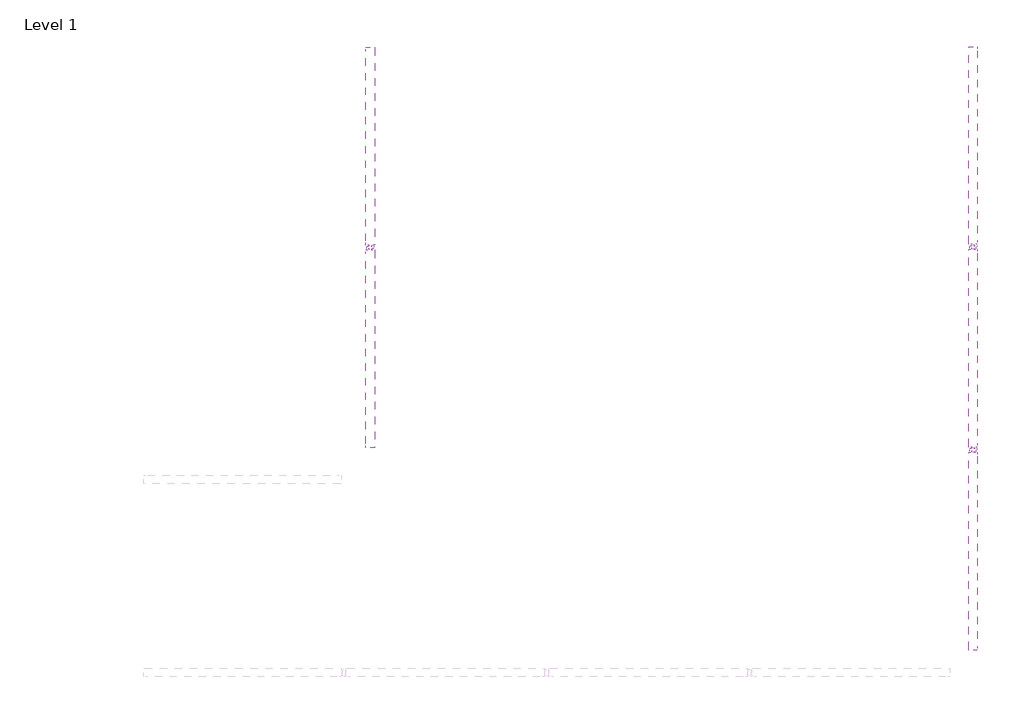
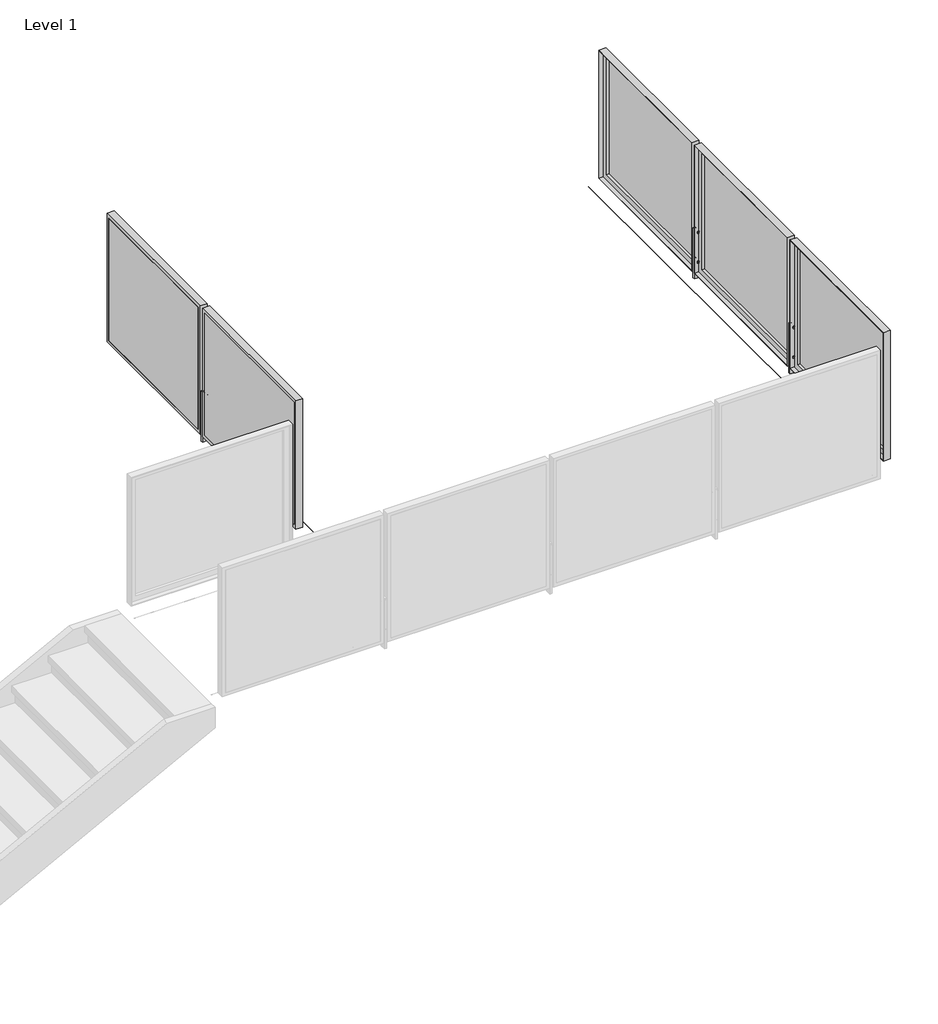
# One storey, part 7 of 37: 2 railings.
"""IFC4 building model written with IfcOpenShell, lengths in millimetres."""

from ifc_helpers import new_model, si_unit, point, frame, frame_2d, origin, place, context, project, spatial, polyline, circle_curve, trimmed, segment, composite_curve, outline, extrude, faceted_brep, element, save
from ifc_brep_helpers import plane_surface, cylinder_surface, advanced_brep

model = new_model("IFC4")

# Units and contexts
model_context = context("Model", 3, world=origin())
ifc_project = project(units=[si_unit("LENGTHUNIT", "METRE", prefix="MILLI")], contexts=[model_context])

# Site, building, storey
site = spatial("IfcSite", under=ifc_project)
building = spatial("IfcBuilding", under=site)
storey = spatial("IfcBuildingStorey", under=building, Name="Level 1", Elevation=0.0)

# Railings
placement = place(None, origin())
element("IfcRailing", 1, ObjectType="Metal-Panel-VIVA-FRAME-Slab-Top-Weld-Straight", at=placement, inside=storey, context=model_context, shape_type="SolidModel", body=[
    extrude(outline(composite_curve([segment(trimmed(circle_curve(frame_2d((3047.746, -31495.7438448)), 0.254), [point((3047.746, -31495.4898448))], [point((3047.746, -31495.9978448))], False, "CARTESIAN"), True, "CONTINUOUS"), segment(trimmed(circle_curve(frame_2d((3047.746, -31495.7438448)), 0.254), [point((3047.746, -31495.9978448))], [point((3047.746, -31495.4898448))], False, "CARTESIAN"), True, "CONTINUOUS")], self_intersect=False)), frame((0.0, -30035.206939, 0.0), z_axis=(0.0, 1.0, 0.0), x_axis=(0.0, 0.0, 1.0)), (0.0, 0.0, 1.0), 2540.0),
    extrude(outline(composite_curve([segment(trimmed(circle_curve(frame_2d((3047.746, -31495.7438448)), 0.254), [point((3047.746, -31495.4898448))], [point((3047.746, -31495.9978448))], False, "CARTESIAN"), True, "CONTINUOUS"), segment(trimmed(circle_curve(frame_2d((3047.746, -31495.7438448)), 0.254), [point((3047.746, -31495.9978448))], [point((3047.746, -31495.4898448))], False, "CARTESIAN"), True, "CONTINUOUS")], self_intersect=False)), frame((0.0, -30035.206939, 0.0), z_axis=(0.0, 1.0, 0.0), x_axis=(0.0, 0.0, 1.0)), (0.0, 0.0, 1.0), 2540.0),
    extrude(outline(polyline([(-31618.5542448, -28724.380482), (-31618.5542448, -27536.0333959), (-31615.5542448, -27536.0333959), (-31615.5542448, -28724.380482), (-31618.5542448, -28724.380482)])), frame((0.0, 0.0, 3124.1959569), z_axis=(0.0, 0.0, 1.0), x_axis=(1.0, 0.0, 0.0)), (0.0, 0.0, 1.0), 990.5826861),
    faceted_brep([(-31618.5542448, -28749.780482, 4140.1786431), (-31618.5542448, -27510.6333959, 4140.1786431), (-31618.5542448, -27510.6333959, 3098.7959569), (-31618.5542448, -28749.780482, 3098.7959569), (-31618.5542448, -28724.380482, 4114.7786431), (-31618.5542448, -28724.380482, 3124.1959569), (-31618.5542448, -27536.0333959, 3124.1959569), (-31618.5542448, -27536.0333959, 4114.7786431), (-31615.5542448, -28724.380482, 3124.1959569), (-31615.5542448, -27536.0333959, 3124.1959569), (-31615.5542448, -27536.0333959, 4114.7786431), (-31615.5542448, -28724.380482, 4114.7786431), (-31564.7542448, -28743.786082, 3104.7903569), (-31564.7542448, -27516.6277959, 3104.7903569), (-31595.5644448, -27516.6277959, 3104.7903569), (-31595.5644448, -28743.786082, 3104.7903569), (-31564.7542448, -27516.6277959, 4134.1842431), (-31595.5644448, -27516.6277959, 4134.1842431), (-31595.5644448, -28743.786082, 4134.1842431), (-31564.7542448, -28743.786082, 4134.1842431), (-31564.7542448, -27510.6333959, 3098.7959569), (-31564.7542448, -27510.6333959, 4140.1786431), (-31564.7542448, -28749.780482, 4140.1786431), (-31564.7542448, -28749.780482, 3098.7959569), (-31615.5542448, -28698.980482, 4089.3786431), (-31615.5542448, -28698.980482, 3149.5959569), (-31615.5542448, -27561.4333959, 3149.5959569), (-31615.5542448, -27561.4333959, 4089.3786431), (-31595.5644448, -27561.4333959, 3149.5959569), (-31595.5644448, -28698.980482, 3149.5959569), (-31595.5644448, -28698.980482, 4089.3786431), (-31595.5644448, -27561.4333959, 4089.3786431)], [[[0, 1, 2, 3], [4, 5, 6, 7]], [[5, 8, 9, 6]], [[6, 9, 10, 7]], [[7, 10, 11, 4]], [[4, 11, 8, 5]], [[12, 13, 14, 15]], [[13, 16, 17, 14]], [[15, 18, 19, 12]], [[20, 21, 22, 23], [12, 19, 16, 13]], [[23, 22, 0, 3]], [[23, 3, 2, 20]], [[2, 1, 21, 20]], [[22, 21, 1, 0]], [[11, 10, 9, 8], [24, 25, 26, 27]], [[14, 17, 18, 15], [28, 29, 30, 31]], [[18, 17, 16, 19]], [[27, 31, 30, 24]], [[26, 28, 31, 27]], [[25, 29, 28, 26]], [[24, 30, 29, 25]]]),
    advanced_brep(
    [(-31591.6542448, -28791.394339, 3178.1496), (-31591.6542448, -28791.394339, 3187.7), (-31591.6542448, -28791.394339, 3197.2504), (-31591.6542448, -28786.619139, 3178.1496), (-31591.6542448, -28786.619139, 3197.2504), (-31591.6542448, -28786.619139, 3182.9248), (-31591.6542448, -28786.619139, 3192.4752), (-31591.6542448, -28743.794739, 3182.9248), (-31591.6542448, -28743.794739, 3192.4752), (-31591.6542448, -28743.794739, 3178.1496), (-31591.6542448, -28743.794739, 3197.2504), (-31591.6542448, -28739.019539, 3178.1496), (-31591.6542448, -28739.019539, 3197.2504), (-31591.6542448, -28739.019539, 3187.7)],
    [
        (0, 1),
        (1, 2),
        (2, 0, circle_curve(frame((-31591.6542448, -28791.394339, 3187.7), z_axis=(0.0, -1.0, 0.0), x_axis=(0.0, 0.0, 1.0)), 9.5504)),
        (0, 2, circle_curve(frame((-31591.6542448, -28791.394339, 3187.7), z_axis=(0.0, -1.0, 0.0), x_axis=(0.0, 0.0, 1.0)), 9.5504)),
        (3, 0),
        (2, 4),
        (4, 3, circle_curve(frame((-31591.6542448, -28786.619139, 3187.7), z_axis=(0.0, -1.0, 0.0), x_axis=(0.0, 0.0, 1.0)), 9.5504)),
        (3, 4, circle_curve(frame((-31591.6542448, -28786.619139, 3187.7), z_axis=(0.0, -1.0, 0.0), x_axis=(0.0, 0.0, 1.0)), 9.5504)),
        (5, 3),
        (4, 6),
        (6, 5, circle_curve(frame((-31591.6542448, -28786.619139, 3187.7), z_axis=(0.0, -1.0, 0.0), x_axis=(0.0, 0.0, 1.0)), 4.7752)),
        (5, 6, circle_curve(frame((-31591.6542448, -28786.619139, 3187.7), z_axis=(0.0, -1.0, 0.0), x_axis=(0.0, 0.0, 1.0)), 4.7752)),
        (7, 5),
        (6, 8),
        (8, 7, circle_curve(frame((-31591.6542448, -28743.794739, 3187.7), z_axis=(0.0, -1.0, 0.0), x_axis=(0.0, 0.0, 1.0)), 4.7752)),
        (7, 8, circle_curve(frame((-31591.6542448, -28743.794739, 3187.7), z_axis=(0.0, -1.0, 0.0), x_axis=(0.0, 0.0, 1.0)), 4.7752)),
        (9, 7),
        (8, 10),
        (10, 9, circle_curve(frame((-31591.6542448, -28743.794739, 3187.7), z_axis=(0.0, -1.0, 0.0), x_axis=(0.0, 0.0, 1.0)), 9.5504)),
        (9, 10, circle_curve(frame((-31591.6542448, -28743.794739, 3187.7), z_axis=(0.0, -1.0, 0.0), x_axis=(0.0, 0.0, 1.0)), 9.5504)),
        (11, 9),
        (10, 12),
        (12, 11, circle_curve(frame((-31591.6542448, -28739.019539, 3187.7), z_axis=(0.0, -1.0, 0.0), x_axis=(0.0, 0.0, 1.0)), 9.5504)),
        (11, 12, circle_curve(frame((-31591.6542448, -28739.019539, 3187.7), z_axis=(0.0, -1.0, 0.0), x_axis=(0.0, 0.0, 1.0)), 9.5504)),
        (13, 11),
        (12, 13),
    ],
    [
        plane_surface(frame((-31591.6542448, -28791.394339, 3187.7), z_axis=(0.0, -1.0, 0.0), x_axis=(0.0, 0.0, 1.0))),
        cylinder_surface(frame((-31591.6542448, -32182.9746961, 3187.7), z_axis=(0.0, 1.0, 0.0), x_axis=(0.0, 0.0, 1.0)), 9.5504),
        plane_surface(frame((-31591.6542448, -28786.619139, 3187.7), z_axis=(0.0, 1.0, 0.0), x_axis=(0.0, 0.0, 1.0))),
        cylinder_surface(frame((-31591.6542448, -32182.9746961, 3187.7), z_axis=(0.0, 1.0, 0.0), x_axis=(0.0, 0.0, 1.0)), 4.7752),
        plane_surface(frame((-31591.6542448, -28743.794739, 3187.7), z_axis=(0.0, -1.0, 0.0), x_axis=(0.0, 0.0, 1.0))),
        plane_surface(frame((-31591.6542448, -28739.019539, 3187.7), z_axis=(0.0, 1.0, 0.0), x_axis=(0.0, 0.0, 1.0))),
    ],
    [
        (0, [[1, 2, 3]]),
        (0, [[-2, -1, 4]]),
        (1, [[5, -3, 6, 7]]),
        (1, [[-6, -4, -5, 8]]),
        (2, [[9, -7, 10, 11]]),
        (2, [[-10, -8, -9, 12]]),
        (3, [[13, -11, 14, 15]]),
        (3, [[-14, -12, -13, 16]]),
        (4, [[17, -15, 18, 19]]),
        (4, [[-18, -16, -17, 20]]),
        (1, [[21, -19, 22, 23]]),
        (1, [[-22, -20, -21, 24]]),
        (5, [[25, -23, 26]]),
        (5, [[-26, -24, -25]]),
    ],
),
    advanced_brep(
    [(-31591.6542448, -28791.394339, 3419.4496), (-31591.6542448, -28791.394339, 3429.0), (-31591.6542448, -28791.394339, 3438.5504), (-31591.6542448, -28786.619139, 3419.4496), (-31591.6542448, -28786.619139, 3438.5504), (-31591.6542448, -28786.619139, 3424.2248), (-31591.6542448, -28786.619139, 3433.7752), (-31591.6542448, -28743.794739, 3424.2248), (-31591.6542448, -28743.794739, 3433.7752), (-31591.6542448, -28743.794739, 3419.4496), (-31591.6542448, -28743.794739, 3438.5504), (-31591.6542448, -28739.019539, 3419.4496), (-31591.6542448, -28739.019539, 3438.5504), (-31591.6542448, -28739.019539, 3429.0)],
    [
        (0, 1),
        (1, 2),
        (2, 0, circle_curve(frame((-31591.6542448, -28791.394339, 3429.0), z_axis=(0.0, -1.0, 0.0), x_axis=(0.0, 0.0, 1.0)), 9.5504)),
        (0, 2, circle_curve(frame((-31591.6542448, -28791.394339, 3429.0), z_axis=(0.0, -1.0, 0.0), x_axis=(0.0, 0.0, 1.0)), 9.5504)),
        (3, 0),
        (2, 4),
        (4, 3, circle_curve(frame((-31591.6542448, -28786.619139, 3429.0), z_axis=(0.0, -1.0, 0.0), x_axis=(0.0, 0.0, 1.0)), 9.5504)),
        (3, 4, circle_curve(frame((-31591.6542448, -28786.619139, 3429.0), z_axis=(0.0, -1.0, 0.0), x_axis=(0.0, 0.0, 1.0)), 9.5504)),
        (5, 3),
        (4, 6),
        (6, 5, circle_curve(frame((-31591.6542448, -28786.619139, 3429.0), z_axis=(0.0, -1.0, 0.0), x_axis=(0.0, 0.0, 1.0)), 4.7752)),
        (5, 6, circle_curve(frame((-31591.6542448, -28786.619139, 3429.0), z_axis=(0.0, -1.0, 0.0), x_axis=(0.0, 0.0, 1.0)), 4.7752)),
        (7, 5),
        (6, 8),
        (8, 7, circle_curve(frame((-31591.6542448, -28743.794739, 3429.0), z_axis=(0.0, -1.0, 0.0), x_axis=(0.0, 0.0, 1.0)), 4.7752)),
        (7, 8, circle_curve(frame((-31591.6542448, -28743.794739, 3429.0), z_axis=(0.0, -1.0, 0.0), x_axis=(0.0, 0.0, 1.0)), 4.7752)),
        (9, 7),
        (8, 10),
        (10, 9, circle_curve(frame((-31591.6542448, -28743.794739, 3429.0), z_axis=(0.0, -1.0, 0.0), x_axis=(0.0, 0.0, 1.0)), 9.5504)),
        (9, 10, circle_curve(frame((-31591.6542448, -28743.794739, 3429.0), z_axis=(0.0, -1.0, 0.0), x_axis=(0.0, 0.0, 1.0)), 9.5504)),
        (11, 9),
        (10, 12),
        (12, 11, circle_curve(frame((-31591.6542448, -28739.019539, 3429.0), z_axis=(0.0, -1.0, 0.0), x_axis=(0.0, 0.0, 1.0)), 9.5504)),
        (11, 12, circle_curve(frame((-31591.6542448, -28739.019539, 3429.0), z_axis=(0.0, -1.0, 0.0), x_axis=(0.0, 0.0, 1.0)), 9.5504)),
        (13, 11),
        (12, 13),
    ],
    [
        plane_surface(frame((-31591.6542448, -28791.394339, 3429.0), z_axis=(0.0, -1.0, 0.0), x_axis=(0.0, 0.0, 1.0))),
        cylinder_surface(frame((-31591.6542448, -32182.9746961, 3429.0), z_axis=(0.0, 1.0, 0.0), x_axis=(0.0, 0.0, 1.0)), 9.5504),
        plane_surface(frame((-31591.6542448, -28786.619139, 3429.0), z_axis=(0.0, 1.0, 0.0), x_axis=(0.0, 0.0, 1.0))),
        cylinder_surface(frame((-31591.6542448, -32182.9746961, 3429.0), z_axis=(0.0, 1.0, 0.0), x_axis=(0.0, 0.0, 1.0)), 4.7752),
        plane_surface(frame((-31591.6542448, -28743.794739, 3429.0), z_axis=(0.0, -1.0, 0.0), x_axis=(0.0, 0.0, 1.0))),
        plane_surface(frame((-31591.6542448, -28739.019539, 3429.0), z_axis=(0.0, 1.0, 0.0), x_axis=(0.0, 0.0, 1.0))),
    ],
    [
        (0, [[1, 2, 3]]),
        (0, [[-2, -1, 4]]),
        (1, [[5, -3, 6, 7]]),
        (1, [[-6, -4, -5, 8]]),
        (2, [[9, -7, 10, 11]]),
        (2, [[-10, -8, -9, 12]]),
        (3, [[13, -11, 14, 15]]),
        (3, [[-14, -12, -13, 16]]),
        (4, [[17, -15, 18, 19]]),
        (4, [[-18, -16, -17, 20]]),
        (1, [[21, -19, 22, 23]]),
        (1, [[-22, -20, -21, 24]]),
        (5, [[25, -23, 26]]),
        (5, [[-26, -24, -25]]),
    ],
),
    extrude(outline(polyline([(-31569.4292448, -28773.1465306), (-31613.8792448, -28773.1465306), (-31613.8792448, -28757.2673473), (-31569.4292448, -28757.2673473), (-31569.4292448, -28773.1465306)])), frame((0.0, 0.0, 3048.0), z_axis=(0.0, 0.0, 1.0), x_axis=(1.0, 0.0, 0.0)), (0.0, 0.0, 1.0), 406.4),
    extrude(outline(polyline([(-31618.5542448, -29994.380482), (-31618.5542448, -28806.0333959), (-31615.5542448, -28806.0333959), (-31615.5542448, -29994.380482), (-31618.5542448, -29994.380482)])), frame((0.0, 0.0, 3124.1959569), z_axis=(0.0, 0.0, 1.0), x_axis=(1.0, 0.0, 0.0)), (0.0, 0.0, 1.0), 990.5826861),
    faceted_brep([(-31618.5542448, -30019.780482, 4140.1786431), (-31618.5542448, -28780.6333959, 4140.1786431), (-31618.5542448, -28780.6333959, 3098.7959569), (-31618.5542448, -30019.780482, 3098.7959569), (-31618.5542448, -29994.380482, 4114.7786431), (-31618.5542448, -29994.380482, 3124.1959569), (-31618.5542448, -28806.0333959, 3124.1959569), (-31618.5542448, -28806.0333959, 4114.7786431), (-31615.5542448, -29994.380482, 3124.1959569), (-31615.5542448, -28806.0333959, 3124.1959569), (-31615.5542448, -28806.0333959, 4114.7786431), (-31615.5542448, -29994.380482, 4114.7786431), (-31564.7542448, -30013.786082, 3104.7903569), (-31564.7542448, -28786.6277959, 3104.7903569), (-31595.5644448, -28786.6277959, 3104.7903569), (-31595.5644448, -30013.786082, 3104.7903569), (-31564.7542448, -28786.6277959, 4134.1842431), (-31595.5644448, -28786.6277959, 4134.1842431), (-31595.5644448, -30013.786082, 4134.1842431), (-31564.7542448, -30013.786082, 4134.1842431), (-31564.7542448, -28780.6333959, 3098.7959569), (-31564.7542448, -28780.6333959, 4140.1786431), (-31564.7542448, -30019.780482, 4140.1786431), (-31564.7542448, -30019.780482, 3098.7959569), (-31615.5542448, -29968.980482, 4089.3786431), (-31615.5542448, -29968.980482, 3149.5959569), (-31615.5542448, -28831.4333959, 3149.5959569), (-31615.5542448, -28831.4333959, 4089.3786431), (-31595.5644448, -28831.4333959, 3149.5959569), (-31595.5644448, -29968.980482, 3149.5959569), (-31595.5644448, -29968.980482, 4089.3786431), (-31595.5644448, -28831.4333959, 4089.3786431)], [[[0, 1, 2, 3], [4, 5, 6, 7]], [[5, 8, 9, 6]], [[6, 9, 10, 7]], [[7, 10, 11, 4]], [[4, 11, 8, 5]], [[12, 13, 14, 15]], [[13, 16, 17, 14]], [[15, 18, 19, 12]], [[20, 21, 22, 23], [12, 19, 16, 13]], [[23, 22, 0, 3]], [[23, 3, 2, 20]], [[2, 1, 21, 20]], [[22, 21, 1, 0]], [[11, 10, 9, 8], [24, 25, 26, 27]], [[14, 17, 18, 15], [28, 29, 30, 31]], [[18, 17, 16, 19]], [[27, 31, 30, 24]], [[26, 28, 31, 27]], [[25, 29, 28, 26]], [[24, 30, 29, 25]]]),
])
element("IfcRailing", 2, ObjectType="Metal-Panel-VIVA-FRAME-Slab-Top-Weld-Straight", at=placement, inside=storey, context=model_context, shape_type="SolidModel", body=[
    extrude(outline(composite_curve([segment(trimmed(circle_curve(frame_2d((3047.746, -27912.4266913)), 0.254), [point((3047.746, -27912.1726913))], [point((3047.746, -27912.6806913))], False, "CARTESIAN"), True, "CONTINUOUS"), segment(trimmed(circle_curve(frame_2d((3047.746, -27912.4266913)), 0.254), [point((3047.746, -27912.6806913))], [point((3047.746, -27912.1726913))], False, "CARTESIAN"), True, "CONTINUOUS")], self_intersect=False)), frame((0.0, -31301.8140064, 0.0), z_axis=(0.0, 1.0, 0.0), x_axis=(0.0, 0.0, 1.0)), (0.0, 0.0, 1.0), 3810.0),
    extrude(outline(composite_curve([segment(trimmed(circle_curve(frame_2d((3047.746, -27912.4266913)), 0.254), [point((3047.746, -27912.1726913))], [point((3047.746, -27912.6806913))], False, "CARTESIAN"), True, "CONTINUOUS"), segment(trimmed(circle_curve(frame_2d((3047.746, -27912.4266913)), 0.254), [point((3047.746, -27912.6806913))], [point((3047.746, -27912.1726913))], False, "CARTESIAN"), True, "CONTINUOUS")], self_intersect=False)), frame((0.0, -31301.8140064, 0.0), z_axis=(0.0, 1.0, 0.0), x_axis=(0.0, 0.0, 1.0)), (0.0, 0.0, 1.0), 3810.0),
    extrude(outline(polyline([(-27789.6162913, -28720.9875494), (-27792.6162913, -28720.9875494), (-27792.6162913, -27532.6404633), (-27789.6162913, -27532.6404633), (-27789.6162913, -28720.9875494)])), frame((0.0, 0.0, 3124.1959569), z_axis=(0.0, 0.0, 1.0), x_axis=(1.0, 0.0, 0.0)), (0.0, 0.0, 1.0), 990.5826861),
    faceted_brep([(-27789.6162913, -28746.3875494, 4140.1786431), (-27789.6162913, -28746.3875494, 3098.7959569), (-27789.6162913, -27507.2404633, 3098.7959569), (-27789.6162913, -27507.2404633, 4140.1786431), (-27789.6162913, -28720.9875494, 4114.7786431), (-27789.6162913, -27532.6404633, 4114.7786431), (-27789.6162913, -27532.6404633, 3124.1959569), (-27789.6162913, -28720.9875494, 3124.1959569), (-27792.6162913, -27532.6404633, 3124.1959569), (-27792.6162913, -28720.9875494, 3124.1959569), (-27792.6162913, -27532.6404633, 4114.7786431), (-27792.6162913, -28720.9875494, 4114.7786431), (-27843.4162913, -28740.3931494, 3104.7903569), (-27812.6060913, -28740.3931494, 3104.7903569), (-27812.6060913, -27513.2348633, 3104.7903569), (-27843.4162913, -27513.2348633, 3104.7903569), (-27812.6060913, -27513.2348633, 4134.1842431), (-27843.4162913, -27513.2348633, 4134.1842431), (-27843.4162913, -28740.3931494, 4134.1842431), (-27812.6060913, -28740.3931494, 4134.1842431), (-27843.4162913, -27507.2404633, 3098.7959569), (-27843.4162913, -28746.3875494, 3098.7959569), (-27843.4162913, -28746.3875494, 4140.1786431), (-27843.4162913, -27507.2404633, 4140.1786431), (-27792.6162913, -28695.5875494, 4089.3786431), (-27792.6162913, -27558.0404633, 4089.3786431), (-27792.6162913, -27558.0404633, 3149.5959569), (-27792.6162913, -28695.5875494, 3149.5959569), (-27812.6060913, -27558.0404633, 3149.5959569), (-27812.6060913, -27558.0404633, 4089.3786431), (-27812.6060913, -28695.5875494, 4089.3786431), (-27812.6060913, -28695.5875494, 3149.5959569)], [[[0, 1, 2, 3], [4, 5, 6, 7]], [[7, 6, 8, 9]], [[6, 5, 10, 8]], [[5, 4, 11, 10]], [[4, 7, 9, 11]], [[12, 13, 14, 15]], [[15, 14, 16, 17]], [[13, 12, 18, 19]], [[20, 21, 22, 23], [12, 15, 17, 18]], [[21, 1, 0, 22]], [[21, 20, 2, 1]], [[2, 20, 23, 3]], [[22, 0, 3, 23]], [[11, 9, 8, 10], [24, 25, 26, 27]], [[14, 13, 19, 16], [28, 29, 30, 31]], [[19, 18, 17, 16]], [[25, 24, 30, 29]], [[26, 25, 29, 28]], [[27, 26, 28, 31]], [[24, 27, 31, 30]]]),
    advanced_brep(
    [(-27816.5162913, -28788.0014064, 3178.1496), (-27816.5162913, -28788.0014064, 3197.2504), (-27816.5162913, -28788.0014064, 3187.7), (-27816.5162913, -28783.2262064, 3178.1496), (-27816.5162913, -28783.2262064, 3197.2504), (-27816.5162913, -28783.2262064, 3182.9248), (-27816.5162913, -28783.2262064, 3192.4752), (-27816.5162913, -28740.4018064, 3182.9248), (-27816.5162913, -28740.4018064, 3192.4752), (-27816.5162913, -28740.4018064, 3178.1496), (-27816.5162913, -28740.4018064, 3197.2504), (-27816.5162913, -28735.6266064, 3178.1496), (-27816.5162913, -28735.6266064, 3197.2504), (-27816.5162913, -28735.6266064, 3187.7)],
    [
        (0, 1, circle_curve(frame((-27816.5162913, -28788.0014064, 3187.7), z_axis=(0.0, -1.0, 0.0), x_axis=(0.0, 0.0, 1.0)), 9.5504)),
        (1, 2),
        (2, 0),
        (1, 0, circle_curve(frame((-27816.5162913, -28788.0014064, 3187.7), z_axis=(0.0, -1.0, 0.0), x_axis=(0.0, 0.0, 1.0)), 9.5504)),
        (3, 4, circle_curve(frame((-27816.5162913, -28783.2262064, 3187.7), z_axis=(0.0, -1.0, 0.0), x_axis=(0.0, 0.0, 1.0)), 9.5504)),
        (4, 1),
        (0, 3),
        (4, 3, circle_curve(frame((-27816.5162913, -28783.2262064, 3187.7), z_axis=(0.0, -1.0, 0.0), x_axis=(0.0, 0.0, 1.0)), 9.5504)),
        (5, 6, circle_curve(frame((-27816.5162913, -28783.2262064, 3187.7), z_axis=(0.0, -1.0, 0.0), x_axis=(0.0, 0.0, 1.0)), 4.7752)),
        (6, 4),
        (3, 5),
        (6, 5, circle_curve(frame((-27816.5162913, -28783.2262064, 3187.7), z_axis=(0.0, -1.0, 0.0), x_axis=(0.0, 0.0, 1.0)), 4.7752)),
        (7, 8, circle_curve(frame((-27816.5162913, -28740.4018064, 3187.7), z_axis=(0.0, -1.0, 0.0), x_axis=(0.0, 0.0, 1.0)), 4.7752)),
        (8, 6),
        (5, 7),
        (8, 7, circle_curve(frame((-27816.5162913, -28740.4018064, 3187.7), z_axis=(0.0, -1.0, 0.0), x_axis=(0.0, 0.0, 1.0)), 4.7752)),
        (9, 10, circle_curve(frame((-27816.5162913, -28740.4018064, 3187.7), z_axis=(0.0, -1.0, 0.0), x_axis=(0.0, 0.0, 1.0)), 9.5504)),
        (10, 8),
        (7, 9),
        (10, 9, circle_curve(frame((-27816.5162913, -28740.4018064, 3187.7), z_axis=(0.0, -1.0, 0.0), x_axis=(0.0, 0.0, 1.0)), 9.5504)),
        (11, 12, circle_curve(frame((-27816.5162913, -28735.6266064, 3187.7), z_axis=(0.0, -1.0, 0.0), x_axis=(0.0, 0.0, 1.0)), 9.5504)),
        (12, 10),
        (9, 11),
        (12, 11, circle_curve(frame((-27816.5162913, -28735.6266064, 3187.7), z_axis=(0.0, -1.0, 0.0), x_axis=(0.0, 0.0, 1.0)), 9.5504)),
        (13, 12),
        (11, 13),
    ],
    [
        plane_surface(frame((-27816.5162913, -28788.0014064, 3187.7), z_axis=(0.0, -1.0, 0.0), x_axis=(0.0, 0.0, 1.0))),
        cylinder_surface(frame((-27816.5162913, -32179.5817635, 3187.7), z_axis=(0.0, 1.0, 0.0), x_axis=(0.0, 0.0, 1.0)), 9.5504),
        plane_surface(frame((-27816.5162913, -28783.2262064, 3187.7), z_axis=(0.0, 1.0, 0.0), x_axis=(0.0, 0.0, 1.0))),
        cylinder_surface(frame((-27816.5162913, -32179.5817635, 3187.7), z_axis=(0.0, 1.0, 0.0), x_axis=(0.0, 0.0, 1.0)), 4.7752),
        plane_surface(frame((-27816.5162913, -28740.4018064, 3187.7), z_axis=(0.0, -1.0, 0.0), x_axis=(0.0, 0.0, 1.0))),
        plane_surface(frame((-27816.5162913, -28735.6266064, 3187.7), z_axis=(0.0, 1.0, 0.0), x_axis=(0.0, 0.0, 1.0))),
    ],
    [
        (0, [[1, 2, 3]]),
        (0, [[4, -3, -2]]),
        (1, [[5, 6, -1, 7]]),
        (1, [[8, -7, -4, -6]]),
        (2, [[9, 10, -5, 11]]),
        (2, [[12, -11, -8, -10]]),
        (3, [[13, 14, -9, 15]]),
        (3, [[16, -15, -12, -14]]),
        (4, [[17, 18, -13, 19]]),
        (4, [[20, -19, -16, -18]]),
        (1, [[21, 22, -17, 23]]),
        (1, [[24, -23, -20, -22]]),
        (5, [[25, -21, 26]]),
        (5, [[-26, -24, -25]]),
    ],
),
    advanced_brep(
    [(-27816.5162913, -28788.0014064, 3419.4496), (-27816.5162913, -28788.0014064, 3438.5504), (-27816.5162913, -28788.0014064, 3429.0), (-27816.5162913, -28783.2262064, 3419.4496), (-27816.5162913, -28783.2262064, 3438.5504), (-27816.5162913, -28783.2262064, 3424.2248), (-27816.5162913, -28783.2262064, 3433.7752), (-27816.5162913, -28740.4018064, 3424.2248), (-27816.5162913, -28740.4018064, 3433.7752), (-27816.5162913, -28740.4018064, 3419.4496), (-27816.5162913, -28740.4018064, 3438.5504), (-27816.5162913, -28735.6266064, 3419.4496), (-27816.5162913, -28735.6266064, 3438.5504), (-27816.5162913, -28735.6266064, 3429.0)],
    [
        (0, 1, circle_curve(frame((-27816.5162913, -28788.0014064, 3429.0), z_axis=(0.0, -1.0, 0.0), x_axis=(0.0, 0.0, 1.0)), 9.5504)),
        (1, 2),
        (2, 0),
        (1, 0, circle_curve(frame((-27816.5162913, -28788.0014064, 3429.0), z_axis=(0.0, -1.0, 0.0), x_axis=(0.0, 0.0, 1.0)), 9.5504)),
        (3, 4, circle_curve(frame((-27816.5162913, -28783.2262064, 3429.0), z_axis=(0.0, -1.0, 0.0), x_axis=(0.0, 0.0, 1.0)), 9.5504)),
        (4, 1),
        (0, 3),
        (4, 3, circle_curve(frame((-27816.5162913, -28783.2262064, 3429.0), z_axis=(0.0, -1.0, 0.0), x_axis=(0.0, 0.0, 1.0)), 9.5504)),
        (5, 6, circle_curve(frame((-27816.5162913, -28783.2262064, 3429.0), z_axis=(0.0, -1.0, 0.0), x_axis=(0.0, 0.0, 1.0)), 4.7752)),
        (6, 4),
        (3, 5),
        (6, 5, circle_curve(frame((-27816.5162913, -28783.2262064, 3429.0), z_axis=(0.0, -1.0, 0.0), x_axis=(0.0, 0.0, 1.0)), 4.7752)),
        (7, 8, circle_curve(frame((-27816.5162913, -28740.4018064, 3429.0), z_axis=(0.0, -1.0, 0.0), x_axis=(0.0, 0.0, 1.0)), 4.7752)),
        (8, 6),
        (5, 7),
        (8, 7, circle_curve(frame((-27816.5162913, -28740.4018064, 3429.0), z_axis=(0.0, -1.0, 0.0), x_axis=(0.0, 0.0, 1.0)), 4.7752)),
        (9, 10, circle_curve(frame((-27816.5162913, -28740.4018064, 3429.0), z_axis=(0.0, -1.0, 0.0), x_axis=(0.0, 0.0, 1.0)), 9.5504)),
        (10, 8),
        (7, 9),
        (10, 9, circle_curve(frame((-27816.5162913, -28740.4018064, 3429.0), z_axis=(0.0, -1.0, 0.0), x_axis=(0.0, 0.0, 1.0)), 9.5504)),
        (11, 12, circle_curve(frame((-27816.5162913, -28735.6266064, 3429.0), z_axis=(0.0, -1.0, 0.0), x_axis=(0.0, 0.0, 1.0)), 9.5504)),
        (12, 10),
        (9, 11),
        (12, 11, circle_curve(frame((-27816.5162913, -28735.6266064, 3429.0), z_axis=(0.0, -1.0, 0.0), x_axis=(0.0, 0.0, 1.0)), 9.5504)),
        (13, 12),
        (11, 13),
    ],
    [
        plane_surface(frame((-27816.5162913, -28788.0014064, 3429.0), z_axis=(0.0, -1.0, 0.0), x_axis=(0.0, 0.0, 1.0))),
        cylinder_surface(frame((-27816.5162913, -32179.5817635, 3429.0), z_axis=(0.0, 1.0, 0.0), x_axis=(0.0, 0.0, 1.0)), 9.5504),
        plane_surface(frame((-27816.5162913, -28783.2262064, 3429.0), z_axis=(0.0, 1.0, 0.0), x_axis=(0.0, 0.0, 1.0))),
        cylinder_surface(frame((-27816.5162913, -32179.5817635, 3429.0), z_axis=(0.0, 1.0, 0.0), x_axis=(0.0, 0.0, 1.0)), 4.7752),
        plane_surface(frame((-27816.5162913, -28740.4018064, 3429.0), z_axis=(0.0, -1.0, 0.0), x_axis=(0.0, 0.0, 1.0))),
        plane_surface(frame((-27816.5162913, -28735.6266064, 3429.0), z_axis=(0.0, 1.0, 0.0), x_axis=(0.0, 0.0, 1.0))),
    ],
    [
        (0, [[1, 2, 3]]),
        (0, [[4, -3, -2]]),
        (1, [[5, 6, -1, 7]]),
        (1, [[8, -7, -4, -6]]),
        (2, [[9, 10, -5, 11]]),
        (2, [[12, -11, -8, -10]]),
        (3, [[13, 14, -9, 15]]),
        (3, [[16, -15, -12, -14]]),
        (4, [[17, 18, -13, 19]]),
        (4, [[20, -19, -16, -18]]),
        (1, [[21, 22, -17, 23]]),
        (1, [[24, -23, -20, -22]]),
        (5, [[25, -21, 26]]),
        (5, [[-26, -24, -25]]),
    ],
),
    extrude(outline(polyline([(-27838.7412913, -28769.753598), (-27838.7412913, -28753.8744147), (-27794.2912913, -28753.8744147), (-27794.2912913, -28769.753598), (-27838.7412913, -28769.753598)])), frame((0.0, 0.0, 3048.0), z_axis=(0.0, 0.0, 1.0), x_axis=(1.0, 0.0, 0.0)), (0.0, 0.0, 1.0), 406.4),
    extrude(outline(polyline([(-27789.6162913, -29990.9875494), (-27792.6162913, -29990.9875494), (-27792.6162913, -28802.6404633), (-27789.6162913, -28802.6404633), (-27789.6162913, -29990.9875494)])), frame((0.0, 0.0, 3124.1959569), z_axis=(0.0, 0.0, 1.0), x_axis=(1.0, 0.0, 0.0)), (0.0, 0.0, 1.0), 990.5826861),
    faceted_brep([(-27789.6162913, -30016.3875494, 4140.1786431), (-27789.6162913, -30016.3875494, 3098.7959569), (-27789.6162913, -28777.2404633, 3098.7959569), (-27789.6162913, -28777.2404633, 4140.1786431), (-27789.6162913, -29990.9875494, 4114.7786431), (-27789.6162913, -28802.6404633, 4114.7786431), (-27789.6162913, -28802.6404633, 3124.1959569), (-27789.6162913, -29990.9875494, 3124.1959569), (-27792.6162913, -28802.6404633, 3124.1959569), (-27792.6162913, -29990.9875494, 3124.1959569), (-27792.6162913, -28802.6404633, 4114.7786431), (-27792.6162913, -29990.9875494, 4114.7786431), (-27843.4162913, -30010.3931494, 3104.7903569), (-27812.6060913, -30010.3931494, 3104.7903569), (-27812.6060913, -28783.2348633, 3104.7903569), (-27843.4162913, -28783.2348633, 3104.7903569), (-27812.6060913, -28783.2348633, 4134.1842431), (-27843.4162913, -28783.2348633, 4134.1842431), (-27843.4162913, -30010.3931494, 4134.1842431), (-27812.6060913, -30010.3931494, 4134.1842431), (-27843.4162913, -28777.2404633, 3098.7959569), (-27843.4162913, -30016.3875494, 3098.7959569), (-27843.4162913, -30016.3875494, 4140.1786431), (-27843.4162913, -28777.2404633, 4140.1786431), (-27792.6162913, -29965.5875494, 4089.3786431), (-27792.6162913, -28828.0404633, 4089.3786431), (-27792.6162913, -28828.0404633, 3149.5959569), (-27792.6162913, -29965.5875494, 3149.5959569), (-27812.6060913, -28828.0404633, 3149.5959569), (-27812.6060913, -28828.0404633, 4089.3786431), (-27812.6060913, -29965.5875494, 4089.3786431), (-27812.6060913, -29965.5875494, 3149.5959569)], [[[0, 1, 2, 3], [4, 5, 6, 7]], [[7, 6, 8, 9]], [[6, 5, 10, 8]], [[5, 4, 11, 10]], [[4, 7, 9, 11]], [[12, 13, 14, 15]], [[15, 14, 16, 17]], [[13, 12, 18, 19]], [[20, 21, 22, 23], [12, 15, 17, 18]], [[21, 1, 0, 22]], [[21, 20, 2, 1]], [[2, 20, 23, 3]], [[22, 0, 3, 23]], [[11, 9, 8, 10], [24, 25, 26, 27]], [[14, 13, 19, 16], [28, 29, 30, 31]], [[19, 18, 17, 16]], [[25, 24, 30, 29]], [[26, 25, 29, 28]], [[27, 26, 28, 31]], [[24, 27, 31, 30]]]),
    advanced_brep(
    [(-27816.5162913, -30058.0014064, 3178.1496), (-27816.5162913, -30058.0014064, 3197.2504), (-27816.5162913, -30058.0014064, 3187.7), (-27816.5162913, -30053.2262064, 3178.1496), (-27816.5162913, -30053.2262064, 3197.2504), (-27816.5162913, -30053.2262064, 3182.9248), (-27816.5162913, -30053.2262064, 3192.4752), (-27816.5162913, -30010.4018064, 3182.9248), (-27816.5162913, -30010.4018064, 3192.4752), (-27816.5162913, -30010.4018064, 3178.1496), (-27816.5162913, -30010.4018064, 3197.2504), (-27816.5162913, -30005.6266064, 3178.1496), (-27816.5162913, -30005.6266064, 3197.2504), (-27816.5162913, -30005.6266064, 3187.7)],
    [
        (0, 1, circle_curve(frame((-27816.5162913, -30058.0014064, 3187.7), z_axis=(0.0, -1.0, 0.0), x_axis=(0.0, 0.0, 1.0)), 9.5504)),
        (1, 2),
        (2, 0),
        (1, 0, circle_curve(frame((-27816.5162913, -30058.0014064, 3187.7), z_axis=(0.0, -1.0, 0.0), x_axis=(0.0, 0.0, 1.0)), 9.5504)),
        (3, 4, circle_curve(frame((-27816.5162913, -30053.2262064, 3187.7), z_axis=(0.0, -1.0, 0.0), x_axis=(0.0, 0.0, 1.0)), 9.5504)),
        (4, 1),
        (0, 3),
        (4, 3, circle_curve(frame((-27816.5162913, -30053.2262064, 3187.7), z_axis=(0.0, -1.0, 0.0), x_axis=(0.0, 0.0, 1.0)), 9.5504)),
        (5, 6, circle_curve(frame((-27816.5162913, -30053.2262064, 3187.7), z_axis=(0.0, -1.0, 0.0), x_axis=(0.0, 0.0, 1.0)), 4.7752)),
        (6, 4),
        (3, 5),
        (6, 5, circle_curve(frame((-27816.5162913, -30053.2262064, 3187.7), z_axis=(0.0, -1.0, 0.0), x_axis=(0.0, 0.0, 1.0)), 4.7752)),
        (7, 8, circle_curve(frame((-27816.5162913, -30010.4018064, 3187.7), z_axis=(0.0, -1.0, 0.0), x_axis=(0.0, 0.0, 1.0)), 4.7752)),
        (8, 6),
        (5, 7),
        (8, 7, circle_curve(frame((-27816.5162913, -30010.4018064, 3187.7), z_axis=(0.0, -1.0, 0.0), x_axis=(0.0, 0.0, 1.0)), 4.7752)),
        (9, 10, circle_curve(frame((-27816.5162913, -30010.4018064, 3187.7), z_axis=(0.0, -1.0, 0.0), x_axis=(0.0, 0.0, 1.0)), 9.5504)),
        (10, 8),
        (7, 9),
        (10, 9, circle_curve(frame((-27816.5162913, -30010.4018064, 3187.7), z_axis=(0.0, -1.0, 0.0), x_axis=(0.0, 0.0, 1.0)), 9.5504)),
        (11, 12, circle_curve(frame((-27816.5162913, -30005.6266064, 3187.7), z_axis=(0.0, -1.0, 0.0), x_axis=(0.0, 0.0, 1.0)), 9.5504)),
        (12, 10),
        (9, 11),
        (12, 11, circle_curve(frame((-27816.5162913, -30005.6266064, 3187.7), z_axis=(0.0, -1.0, 0.0), x_axis=(0.0, 0.0, 1.0)), 9.5504)),
        (13, 12),
        (11, 13),
    ],
    [
        plane_surface(frame((-27816.5162913, -30058.0014064, 3187.7), z_axis=(0.0, -1.0, 0.0), x_axis=(0.0, 0.0, 1.0))),
        cylinder_surface(frame((-27816.5162913, -33449.5817635, 3187.7), z_axis=(0.0, 1.0, 0.0), x_axis=(0.0, 0.0, 1.0)), 9.5504),
        plane_surface(frame((-27816.5162913, -30053.2262064, 3187.7), z_axis=(0.0, 1.0, 0.0), x_axis=(0.0, 0.0, 1.0))),
        cylinder_surface(frame((-27816.5162913, -33449.5817635, 3187.7), z_axis=(0.0, 1.0, 0.0), x_axis=(0.0, 0.0, 1.0)), 4.7752),
        plane_surface(frame((-27816.5162913, -30010.4018064, 3187.7), z_axis=(0.0, -1.0, 0.0), x_axis=(0.0, 0.0, 1.0))),
        plane_surface(frame((-27816.5162913, -30005.6266064, 3187.7), z_axis=(0.0, 1.0, 0.0), x_axis=(0.0, 0.0, 1.0))),
    ],
    [
        (0, [[1, 2, 3]]),
        (0, [[4, -3, -2]]),
        (1, [[5, 6, -1, 7]]),
        (1, [[8, -7, -4, -6]]),
        (2, [[9, 10, -5, 11]]),
        (2, [[12, -11, -8, -10]]),
        (3, [[13, 14, -9, 15]]),
        (3, [[16, -15, -12, -14]]),
        (4, [[17, 18, -13, 19]]),
        (4, [[20, -19, -16, -18]]),
        (1, [[21, 22, -17, 23]]),
        (1, [[24, -23, -20, -22]]),
        (5, [[25, -21, 26]]),
        (5, [[-26, -24, -25]]),
    ],
),
    advanced_brep(
    [(-27816.5162913, -30058.0014064, 3419.4496), (-27816.5162913, -30058.0014064, 3438.5504), (-27816.5162913, -30058.0014064, 3429.0), (-27816.5162913, -30053.2262064, 3419.4496), (-27816.5162913, -30053.2262064, 3438.5504), (-27816.5162913, -30053.2262064, 3424.2248), (-27816.5162913, -30053.2262064, 3433.7752), (-27816.5162913, -30010.4018064, 3424.2248), (-27816.5162913, -30010.4018064, 3433.7752), (-27816.5162913, -30010.4018064, 3419.4496), (-27816.5162913, -30010.4018064, 3438.5504), (-27816.5162913, -30005.6266064, 3419.4496), (-27816.5162913, -30005.6266064, 3438.5504), (-27816.5162913, -30005.6266064, 3429.0)],
    [
        (0, 1, circle_curve(frame((-27816.5162913, -30058.0014064, 3429.0), z_axis=(0.0, -1.0, 0.0), x_axis=(0.0, 0.0, 1.0)), 9.5504)),
        (1, 2),
        (2, 0),
        (1, 0, circle_curve(frame((-27816.5162913, -30058.0014064, 3429.0), z_axis=(0.0, -1.0, 0.0), x_axis=(0.0, 0.0, 1.0)), 9.5504)),
        (3, 4, circle_curve(frame((-27816.5162913, -30053.2262064, 3429.0), z_axis=(0.0, -1.0, 0.0), x_axis=(0.0, 0.0, 1.0)), 9.5504)),
        (4, 1),
        (0, 3),
        (4, 3, circle_curve(frame((-27816.5162913, -30053.2262064, 3429.0), z_axis=(0.0, -1.0, 0.0), x_axis=(0.0, 0.0, 1.0)), 9.5504)),
        (5, 6, circle_curve(frame((-27816.5162913, -30053.2262064, 3429.0), z_axis=(0.0, -1.0, 0.0), x_axis=(0.0, 0.0, 1.0)), 4.7752)),
        (6, 4),
        (3, 5),
        (6, 5, circle_curve(frame((-27816.5162913, -30053.2262064, 3429.0), z_axis=(0.0, -1.0, 0.0), x_axis=(0.0, 0.0, 1.0)), 4.7752)),
        (7, 8, circle_curve(frame((-27816.5162913, -30010.4018064, 3429.0), z_axis=(0.0, -1.0, 0.0), x_axis=(0.0, 0.0, 1.0)), 4.7752)),
        (8, 6),
        (5, 7),
        (8, 7, circle_curve(frame((-27816.5162913, -30010.4018064, 3429.0), z_axis=(0.0, -1.0, 0.0), x_axis=(0.0, 0.0, 1.0)), 4.7752)),
        (9, 10, circle_curve(frame((-27816.5162913, -30010.4018064, 3429.0), z_axis=(0.0, -1.0, 0.0), x_axis=(0.0, 0.0, 1.0)), 9.5504)),
        (10, 8),
        (7, 9),
        (10, 9, circle_curve(frame((-27816.5162913, -30010.4018064, 3429.0), z_axis=(0.0, -1.0, 0.0), x_axis=(0.0, 0.0, 1.0)), 9.5504)),
        (11, 12, circle_curve(frame((-27816.5162913, -30005.6266064, 3429.0), z_axis=(0.0, -1.0, 0.0), x_axis=(0.0, 0.0, 1.0)), 9.5504)),
        (12, 10),
        (9, 11),
        (12, 11, circle_curve(frame((-27816.5162913, -30005.6266064, 3429.0), z_axis=(0.0, -1.0, 0.0), x_axis=(0.0, 0.0, 1.0)), 9.5504)),
        (13, 12),
        (11, 13),
    ],
    [
        plane_surface(frame((-27816.5162913, -30058.0014064, 3429.0), z_axis=(0.0, -1.0, 0.0), x_axis=(0.0, 0.0, 1.0))),
        cylinder_surface(frame((-27816.5162913, -33449.5817635, 3429.0), z_axis=(0.0, 1.0, 0.0), x_axis=(0.0, 0.0, 1.0)), 9.5504),
        plane_surface(frame((-27816.5162913, -30053.2262064, 3429.0), z_axis=(0.0, 1.0, 0.0), x_axis=(0.0, 0.0, 1.0))),
        cylinder_surface(frame((-27816.5162913, -33449.5817635, 3429.0), z_axis=(0.0, 1.0, 0.0), x_axis=(0.0, 0.0, 1.0)), 4.7752),
        plane_surface(frame((-27816.5162913, -30010.4018064, 3429.0), z_axis=(0.0, -1.0, 0.0), x_axis=(0.0, 0.0, 1.0))),
        plane_surface(frame((-27816.5162913, -30005.6266064, 3429.0), z_axis=(0.0, 1.0, 0.0), x_axis=(0.0, 0.0, 1.0))),
    ],
    [
        (0, [[1, 2, 3]]),
        (0, [[4, -3, -2]]),
        (1, [[5, 6, -1, 7]]),
        (1, [[8, -7, -4, -6]]),
        (2, [[9, 10, -5, 11]]),
        (2, [[12, -11, -8, -10]]),
        (3, [[13, 14, -9, 15]]),
        (3, [[16, -15, -12, -14]]),
        (4, [[17, 18, -13, 19]]),
        (4, [[20, -19, -16, -18]]),
        (1, [[21, 22, -17, 23]]),
        (1, [[24, -23, -20, -22]]),
        (5, [[25, -21, 26]]),
        (5, [[-26, -24, -25]]),
    ],
),
    extrude(outline(polyline([(-27838.7412913, -30039.753598), (-27838.7412913, -30023.8744147), (-27794.2912913, -30023.8744147), (-27794.2912913, -30039.753598), (-27838.7412913, -30039.753598)])), frame((0.0, 0.0, 3048.0), z_axis=(0.0, 0.0, 1.0), x_axis=(1.0, 0.0, 0.0)), (0.0, 0.0, 1.0), 406.4),
    extrude(outline(polyline([(-27789.6162913, -31260.9875494), (-27792.6162913, -31260.9875494), (-27792.6162913, -30072.6404633), (-27789.6162913, -30072.6404633), (-27789.6162913, -31260.9875494)])), frame((0.0, 0.0, 3124.1959569), z_axis=(0.0, 0.0, 1.0), x_axis=(1.0, 0.0, 0.0)), (0.0, 0.0, 1.0), 990.5826861),
    faceted_brep([(-27789.6162913, -31286.3875494, 4140.1786431), (-27789.6162913, -31286.3875494, 3098.7959569), (-27789.6162913, -30047.2404633, 3098.7959569), (-27789.6162913, -30047.2404633, 4140.1786431), (-27789.6162913, -31260.9875494, 4114.7786431), (-27789.6162913, -30072.6404633, 4114.7786431), (-27789.6162913, -30072.6404633, 3124.1959569), (-27789.6162913, -31260.9875494, 3124.1959569), (-27792.6162913, -30072.6404633, 3124.1959569), (-27792.6162913, -31260.9875494, 3124.1959569), (-27792.6162913, -30072.6404633, 4114.7786431), (-27792.6162913, -31260.9875494, 4114.7786431), (-27843.4162913, -31280.3931494, 3104.7903569), (-27812.6060913, -31280.3931494, 3104.7903569), (-27812.6060913, -30053.2348633, 3104.7903569), (-27843.4162913, -30053.2348633, 3104.7903569), (-27812.6060913, -30053.2348633, 4134.1842431), (-27843.4162913, -30053.2348633, 4134.1842431), (-27843.4162913, -31280.3931494, 4134.1842431), (-27812.6060913, -31280.3931494, 4134.1842431), (-27843.4162913, -30047.2404633, 3098.7959569), (-27843.4162913, -31286.3875494, 3098.7959569), (-27843.4162913, -31286.3875494, 4140.1786431), (-27843.4162913, -30047.2404633, 4140.1786431), (-27792.6162913, -31235.5875494, 4089.3786431), (-27792.6162913, -30098.0404633, 4089.3786431), (-27792.6162913, -30098.0404633, 3149.5959569), (-27792.6162913, -31235.5875494, 3149.5959569), (-27812.6060913, -30098.0404633, 3149.5959569), (-27812.6060913, -30098.0404633, 4089.3786431), (-27812.6060913, -31235.5875494, 4089.3786431), (-27812.6060913, -31235.5875494, 3149.5959569)], [[[0, 1, 2, 3], [4, 5, 6, 7]], [[7, 6, 8, 9]], [[6, 5, 10, 8]], [[5, 4, 11, 10]], [[4, 7, 9, 11]], [[12, 13, 14, 15]], [[15, 14, 16, 17]], [[13, 12, 18, 19]], [[20, 21, 22, 23], [12, 15, 17, 18]], [[21, 1, 0, 22]], [[21, 20, 2, 1]], [[2, 20, 23, 3]], [[22, 0, 3, 23]], [[11, 9, 8, 10], [24, 25, 26, 27]], [[14, 13, 19, 16], [28, 29, 30, 31]], [[19, 18, 17, 16]], [[25, 24, 30, 29]], [[26, 25, 29, 28]], [[27, 26, 28, 31]], [[24, 27, 31, 30]]]),
])

save(model, "model.ifc")
